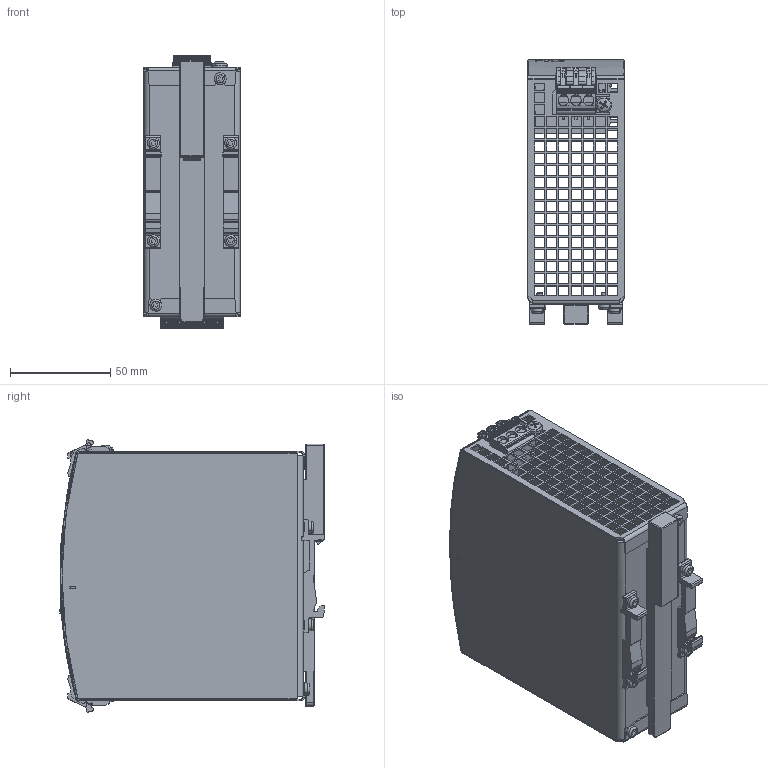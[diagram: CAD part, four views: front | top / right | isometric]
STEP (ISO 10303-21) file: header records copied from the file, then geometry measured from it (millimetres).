
FILE_DESCRIPTION (( 'STEP AP214' ), '1' );
FILE_NAME ('CP10.241-ETC.STP', '2024-03-19T11:26:01', ( '' ), ( '' ), 'SwSTEP 2.0', 'SolidWorks 2023', '' );
FILE_SCHEMA (( 'AUTOMOTIVE_DESIGN' ));
Length unit declared in the file: millimetre
Products named in the file (13): ETHERNET_457_70; XT-LP3BK-DI_BRep_Config; MKT_SCREW 3x6_Feat_Config; MKT_LED GN_Feat_Config; HOUSING-COVER-457_70_BRep_Config; XT-LP5BK-DC_BRep_Config; MKT_T HOLDER1; MKT_SLIDER_Feat_Config; RA-1K0-93_Feat_Config; CP10.241-ETC; FRONTFOIL-457_10_EL-457.940.00; MKT_SCREW 4x8_Feat_Config; HOUSING-BODY-457_70_BRep_Config
Assembly tree (18 placements, depth 2):
  CP10.241-ETC
    HOUSING-BODY-457_70_BRep_Config
    HOUSING-COVER-457_70_BRep_Config
    XT-LP5BK-DC_BRep_Config
    XT-LP3BK-DI_BRep_Config
    ETHERNET_457_70
    MKT_SLIDER_Feat_Config
    MKT_T HOLDER1  x2
    MKT_SCREW 3x6_Feat_Config  x6
    MKT_LED GN_Feat_Config
    FRONTFOIL-457_10_EL-457.940.00
    MKT_SCREW 4x8_Feat_Config
    RA-1K0-93_Feat_Config
Bounding box: 48.03 x 131.58 x 135.8 mm (x, y, z)
Volume: 90172.2 mm3; surface area: 135934.5 mm2
Topology: 17 solids, 135 shells, 7670 faces, 21586 edges, 14182 vertices
Faces by surface type: plane 4981, cylinder 1758, torus 407, bspline 248, cone 189, sphere 87
Entity records: 256721 total; most frequent: CARTESIAN_POINT 60769, ORIENTED_EDGE 42287, DIRECTION 38787, EDGE_CURVE 21150, VECTOR 15277, LINE 15277, VERTEX_POINT 13906, AXIS2_PLACEMENT_3D 11755
